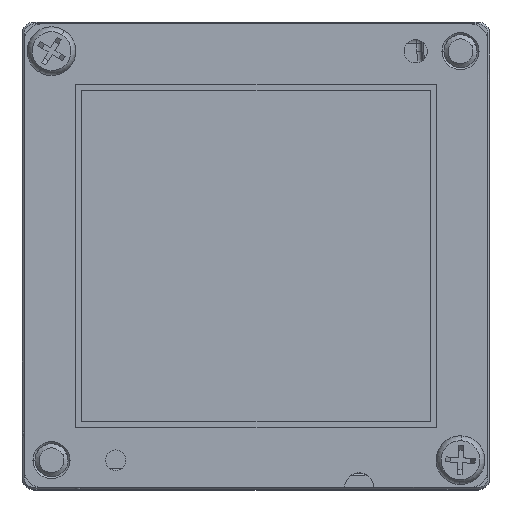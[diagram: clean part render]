
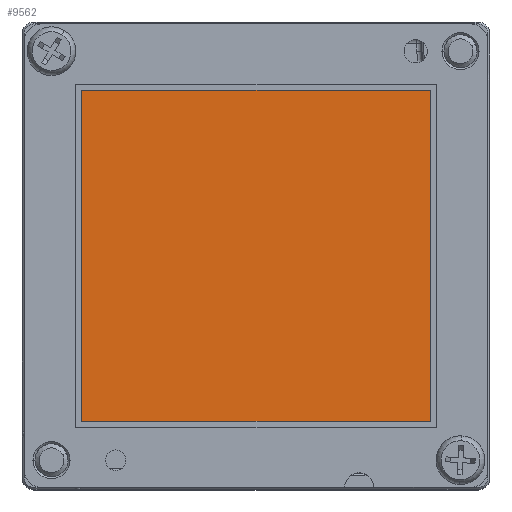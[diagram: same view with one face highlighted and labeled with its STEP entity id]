
A CAD part, top view. The second image highlights one B-rep face of the part: STEP entity #9562.
In plain terms, the highlighted planar face has unit normal (0, 0, 1).
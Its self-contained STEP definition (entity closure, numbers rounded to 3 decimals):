
#5880 = ORIENTED_EDGE ( 'NONE', *, *, #44499, .T. ) ;
#6588 = CARTESIAN_POINT ( 'NONE',  ( -8.95, -8.5, 1.785 ) ) ;
#9562 = ADVANCED_FACE ( 'NONE', ( #54433 ), #72464, .T. ) ;
#16205 = VECTOR ( 'NONE', #56120, 1000. ) ;
#22396 = CARTESIAN_POINT ( 'NONE',  ( -8.95, -8.5, 1.785 ) ) ;
#23675 = CARTESIAN_POINT ( 'NONE',  ( 8.95, 8.5, 1.785 ) ) ;
#25159 = CARTESIAN_POINT ( 'NONE',  ( -8.95, -8.5, 1.785 ) ) ;
#27653 = EDGE_CURVE ( 'NONE', #110986, #52083, #42346, .T. ) ;
#27759 = EDGE_LOOP ( 'NONE', ( #70705, #53962, #60098, #5880 ) ) ;
#41064 = DIRECTION ( 'NONE',  ( 0., -1., 0. ) ) ;
#41661 = VECTOR ( 'NONE', #59830, 1000. ) ;
#42346 = LINE ( 'NONE', #102752, #41661 ) ;
#44499 = EDGE_CURVE ( 'NONE', #67965, #87402, #83973, .T. ) ;
#46534 = LINE ( 'NONE', #80983, #16205 ) ;
#52083 = VERTEX_POINT ( 'NONE', #23675 ) ;
#53962 = ORIENTED_EDGE ( 'NONE', *, *, #27653, .T. ) ;
#54433 = FACE_OUTER_BOUND ( 'NONE', #27759, .T. ) ;
#56120 = DIRECTION ( 'NONE',  ( -1., 0., 0. ) ) ;
#57232 = CARTESIAN_POINT ( 'NONE',  ( -8.95, 8.5, 1.785 ) ) ;
#59830 = DIRECTION ( 'NONE',  ( 0., 1., 0. ) ) ;
#60098 = ORIENTED_EDGE ( 'NONE', *, *, #67881, .T. ) ;
#60704 = LINE ( 'NONE', #25159, #105759 ) ;
#65231 = AXIS2_PLACEMENT_3D ( 'NONE', #105258, #96756, #106909 ) ;
#67881 = EDGE_CURVE ( 'NONE', #52083, #67965, #46534, .T. ) ;
#67965 = VERTEX_POINT ( 'NONE', #57232 ) ;
#70705 = ORIENTED_EDGE ( 'NONE', *, *, #96030, .T. ) ;
#72464 = PLANE ( 'NONE',  #65231 ) ;
#73158 = VECTOR ( 'NONE', #41064, 1000. ) ;
#80983 = CARTESIAN_POINT ( 'NONE',  ( -8.95, 8.5, 1.785 ) ) ;
#83973 = LINE ( 'NONE', #6588, #73158 ) ;
#85832 = CARTESIAN_POINT ( 'NONE',  ( 8.95, -8.5, 1.785 ) ) ;
#87402 = VERTEX_POINT ( 'NONE', #22396 ) ;
#96030 = EDGE_CURVE ( 'NONE', #87402, #110986, #60704, .T. ) ;
#96756 = DIRECTION ( 'NONE',  ( 0., 0., 1. ) ) ;
#102752 = CARTESIAN_POINT ( 'NONE',  ( 8.95, -8.5, 1.785 ) ) ;
#104751 = DIRECTION ( 'NONE',  ( 1., 0., 0. ) ) ;
#105258 = CARTESIAN_POINT ( 'NONE',  ( 0., 0., 1.785 ) ) ;
#105759 = VECTOR ( 'NONE', #104751, 1000. ) ;
#106909 = DIRECTION ( 'NONE',  ( 1., 0., 0. ) ) ;
#110986 = VERTEX_POINT ( 'NONE', #85832 ) ;
